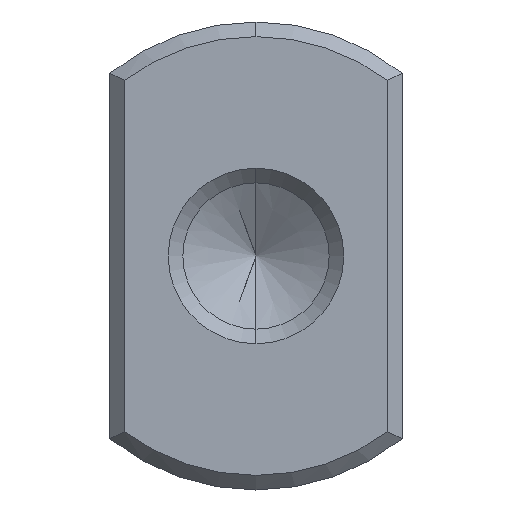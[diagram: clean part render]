
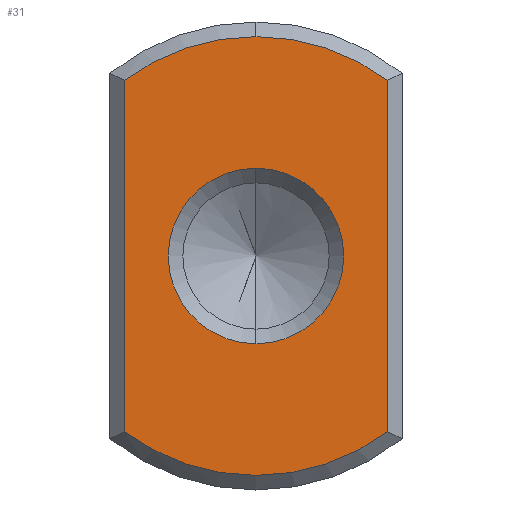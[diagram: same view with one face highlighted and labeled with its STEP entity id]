
A CAD part, front view. The second image highlights one B-rep face of the part: STEP entity #31.
In plain terms, the highlighted planar face has unit normal (0, -1, 0).
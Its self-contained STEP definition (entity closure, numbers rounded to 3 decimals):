
#7 = FACE_BOUND ( 'NONE', #288, .T. ) ;
#18 = LINE ( 'NONE', #432, #175 ) ;
#20 = CARTESIAN_POINT ( 'NONE',  ( 0., -3., 0. ) ) ;
#31 = ADVANCED_FACE ( 'NONE', ( #242, #7 ), #53, .T. ) ;
#50 = VECTOR ( 'NONE', #159, 1000. ) ;
#51 = DIRECTION ( 'NONE',  ( 0., -1., 0. ) ) ;
#53 = PLANE ( 'NONE',  #82 ) ;
#70 = DIRECTION ( 'NONE',  ( 0., 0., -1. ) ) ;
#82 = AXIS2_PLACEMENT_3D ( 'NONE', #110, #51, #281 ) ;
#97 = CARTESIAN_POINT ( 'NONE',  ( 0., -3., 0. ) ) ;
#110 = CARTESIAN_POINT ( 'NONE',  ( 0., -3., 0. ) ) ;
#113 = VERTEX_POINT ( 'NONE', #379 ) ;
#120 = CIRCLE ( 'NONE', #351, 3. ) ;
#129 = CARTESIAN_POINT ( 'NONE',  ( 0., -3., 0. ) ) ;
#159 = DIRECTION ( 'NONE',  ( 0., 0., -1. ) ) ;
#167 = CARTESIAN_POINT ( 'NONE',  ( -4.5, -3., -6.245 ) ) ;
#175 = VECTOR ( 'NONE', #608, 1000. ) ;
#178 = CARTESIAN_POINT ( 'NONE',  ( -4.5, -3., -6. ) ) ;
#188 = DIRECTION ( 'NONE',  ( 0., 0., -1. ) ) ;
#191 = AXIS2_PLACEMENT_3D ( 'NONE', #20, #196, #188 ) ;
#196 = DIRECTION ( 'NONE',  ( 0., -1., 0. ) ) ;
#211 = EDGE_CURVE ( 'NONE', #232, #698, #646, .T. ) ;
#220 = EDGE_CURVE ( 'NONE', #670, #697, #377, .T. ) ;
#223 = DIRECTION ( 'NONE',  ( 0., -1., 0. ) ) ;
#232 = VERTEX_POINT ( 'NONE', #178 ) ;
#237 = EDGE_LOOP ( 'NONE', ( #269, #274, #636, #479, #472 ) ) ;
#242 = FACE_OUTER_BOUND ( 'NONE', #237, .T. ) ;
#253 = CIRCLE ( 'NONE', #506, 7.5 ) ;
#269 = ORIENTED_EDGE ( 'NONE', *, *, #621, .T. ) ;
#273 = DIRECTION ( 'NONE',  ( 0., 0., -1. ) ) ;
#274 = ORIENTED_EDGE ( 'NONE', *, *, #565, .T. ) ;
#281 = DIRECTION ( 'NONE',  ( 0., 0., -1. ) ) ;
#288 = EDGE_LOOP ( 'NONE', ( #347, #301 ) ) ;
#301 = ORIENTED_EDGE ( 'NONE', *, *, #662, .T. ) ;
#325 = CIRCLE ( 'NONE', #191, 7.5 ) ;
#347 = ORIENTED_EDGE ( 'NONE', *, *, #220, .T. ) ;
#350 = DIRECTION ( 'NONE',  ( 0., 1., 0. ) ) ;
#351 = AXIS2_PLACEMENT_3D ( 'NONE', #723, #720, #668 ) ;
#363 = EDGE_CURVE ( 'NONE', #698, #113, #18, .T. ) ;
#367 = CARTESIAN_POINT ( 'NONE',  ( 0., -3., 7.5 ) ) ;
#368 = CARTESIAN_POINT ( 'NONE',  ( 0., -3., -3. ) ) ;
#377 = CIRCLE ( 'NONE', #534, 3. ) ;
#379 = CARTESIAN_POINT ( 'NONE',  ( 4.5, -3., 6. ) ) ;
#427 = AXIS2_PLACEMENT_3D ( 'NONE', #493, #223, #620 ) ;
#432 = CARTESIAN_POINT ( 'NONE',  ( 4.5, -3., 6.245 ) ) ;
#443 = VERTEX_POINT ( 'NONE', #367 ) ;
#472 = ORIENTED_EDGE ( 'NONE', *, *, #363, .T. ) ;
#474 = CARTESIAN_POINT ( 'NONE',  ( -4.5, -3., 6. ) ) ;
#479 = ORIENTED_EDGE ( 'NONE', *, *, #211, .T. ) ;
#493 = CARTESIAN_POINT ( 'NONE',  ( 0., -3., 0. ) ) ;
#498 = LINE ( 'NONE', #167, #50 ) ;
#506 = AXIS2_PLACEMENT_3D ( 'NONE', #97, #628, #273 ) ;
#514 = EDGE_CURVE ( 'NONE', #616, #232, #498, .T. ) ;
#534 = AXIS2_PLACEMENT_3D ( 'NONE', #129, #350, #70 ) ;
#565 = EDGE_CURVE ( 'NONE', #443, #616, #253, .T. ) ;
#608 = DIRECTION ( 'NONE',  ( 0., 0., 1. ) ) ;
#616 = VERTEX_POINT ( 'NONE', #474 ) ;
#620 = DIRECTION ( 'NONE',  ( 0., 0., -1. ) ) ;
#621 = EDGE_CURVE ( 'NONE', #113, #443, #325, .T. ) ;
#628 = DIRECTION ( 'NONE',  ( 0., -1., 0. ) ) ;
#636 = ORIENTED_EDGE ( 'NONE', *, *, #514, .T. ) ;
#646 = CIRCLE ( 'NONE', #427, 7.5 ) ;
#656 = CARTESIAN_POINT ( 'NONE',  ( 4.5, -3., -6. ) ) ;
#662 = EDGE_CURVE ( 'NONE', #697, #670, #120, .T. ) ;
#668 = DIRECTION ( 'NONE',  ( 0., 0., -1. ) ) ;
#670 = VERTEX_POINT ( 'NONE', #368 ) ;
#697 = VERTEX_POINT ( 'NONE', #729 ) ;
#698 = VERTEX_POINT ( 'NONE', #656 ) ;
#720 = DIRECTION ( 'NONE',  ( 0., 1., 0. ) ) ;
#723 = CARTESIAN_POINT ( 'NONE',  ( 0., -3., 0. ) ) ;
#729 = CARTESIAN_POINT ( 'NONE',  ( 0., -3., 3. ) ) ;
